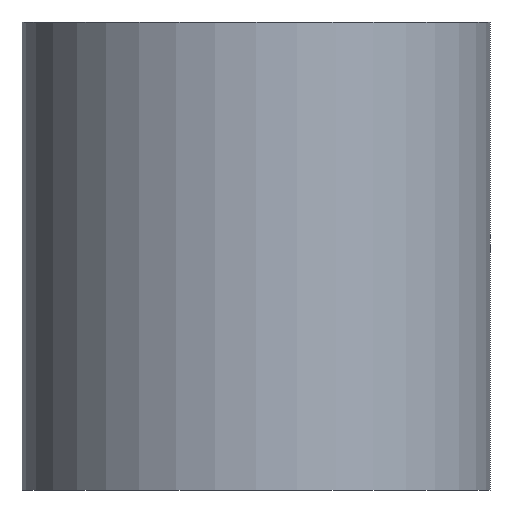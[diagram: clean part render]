
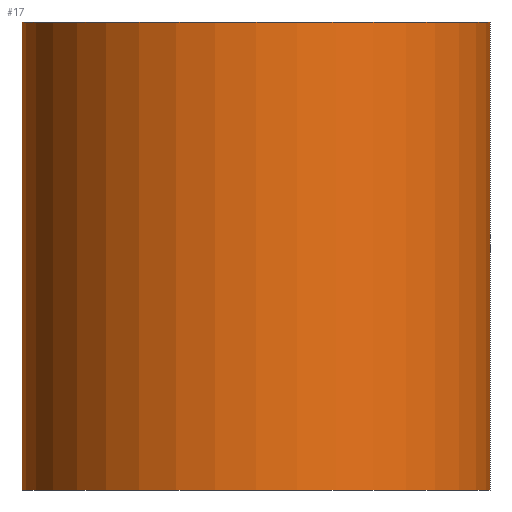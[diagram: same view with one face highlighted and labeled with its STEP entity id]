
A CAD part, front view. The second image highlights one B-rep face of the part: STEP entity #17.
In plain terms, the highlighted cylindrical face has radius 5 mm (diameter 10 mm), a full revolution.
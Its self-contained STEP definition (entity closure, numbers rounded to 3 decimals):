
#17 = ADVANCED_FACE('',(#18),#32,.T.);
#18 = FACE_BOUND('',#19,.F.);
#19 = EDGE_LOOP('',(#20,#50,#77,#78));
#20 = ORIENTED_EDGE('',*,*,#21,.T.);
#21 = EDGE_CURVE('',#22,#24,#26,.T.);
#22 = VERTEX_POINT('',#23);
#23 = CARTESIAN_POINT('',(5.,0.,0.));
#24 = VERTEX_POINT('',#25);
#25 = CARTESIAN_POINT('',(5.,0.,10.));
#26 = SEAM_CURVE('',#27,(#31,#43),.PCURVE_S1.);
#27 = LINE('',#28,#29);
#28 = CARTESIAN_POINT('',(5.,0.,0.));
#29 = VECTOR('',#30,1.);
#30 = DIRECTION('',(0.,0.,1.));
#31 = PCURVE('',#32,#37);
#32 = CYLINDRICAL_SURFACE('',#33,5.);
#33 = AXIS2_PLACEMENT_3D('',#34,#35,#36);
#34 = CARTESIAN_POINT('',(0.,0.,0.));
#35 = DIRECTION('',(-0.,-0.,-1.));
#36 = DIRECTION('',(1.,0.,0.));
#37 = DEFINITIONAL_REPRESENTATION('',(#38),#42);
#38 = LINE('',#39,#40);
#39 = CARTESIAN_POINT('',(-0.,0.));
#40 = VECTOR('',#41,1.);
#41 = DIRECTION('',(-0.,-1.));
#42 = ( GEOMETRIC_REPRESENTATION_CONTEXT(2) 
PARAMETRIC_REPRESENTATION_CONTEXT() REPRESENTATION_CONTEXT('2D SPACE',''
  ) );
#43 = PCURVE('',#32,#44);
#44 = DEFINITIONAL_REPRESENTATION('',(#45),#49);
#45 = LINE('',#46,#47);
#46 = CARTESIAN_POINT('',(-6.283,0.));
#47 = VECTOR('',#48,1.);
#48 = DIRECTION('',(-0.,-1.));
#49 = ( GEOMETRIC_REPRESENTATION_CONTEXT(2) 
PARAMETRIC_REPRESENTATION_CONTEXT() REPRESENTATION_CONTEXT('2D SPACE',''
  ) );
#50 = ORIENTED_EDGE('',*,*,#51,.T.);
#51 = EDGE_CURVE('',#24,#24,#52,.T.);
#52 = SURFACE_CURVE('',#53,(#58,#65),.PCURVE_S1.);
#53 = CIRCLE('',#54,5.);
#54 = AXIS2_PLACEMENT_3D('',#55,#56,#57);
#55 = CARTESIAN_POINT('',(0.,0.,10.));
#56 = DIRECTION('',(0.,0.,1.));
#57 = DIRECTION('',(1.,0.,0.));
#58 = PCURVE('',#32,#59);
#59 = DEFINITIONAL_REPRESENTATION('',(#60),#64);
#60 = LINE('',#61,#62);
#61 = CARTESIAN_POINT('',(-0.,-10.));
#62 = VECTOR('',#63,1.);
#63 = DIRECTION('',(-1.,0.));
#64 = ( GEOMETRIC_REPRESENTATION_CONTEXT(2) 
PARAMETRIC_REPRESENTATION_CONTEXT() REPRESENTATION_CONTEXT('2D SPACE',''
  ) );
#65 = PCURVE('',#66,#71);
#66 = PLANE('',#67);
#67 = AXIS2_PLACEMENT_3D('',#68,#69,#70);
#68 = CARTESIAN_POINT('',(0.,0.,10.));
#69 = DIRECTION('',(0.,0.,1.));
#70 = DIRECTION('',(1.,0.,-0.));
#71 = DEFINITIONAL_REPRESENTATION('',(#72),#76);
#72 = CIRCLE('',#73,5.);
#73 = AXIS2_PLACEMENT_2D('',#74,#75);
#74 = CARTESIAN_POINT('',(0.,0.));
#75 = DIRECTION('',(1.,0.));
#76 = ( GEOMETRIC_REPRESENTATION_CONTEXT(2) 
PARAMETRIC_REPRESENTATION_CONTEXT() REPRESENTATION_CONTEXT('2D SPACE',''
  ) );
#77 = ORIENTED_EDGE('',*,*,#21,.F.);
#78 = ORIENTED_EDGE('',*,*,#79,.F.);
#79 = EDGE_CURVE('',#22,#22,#80,.T.);
#80 = SURFACE_CURVE('',#81,(#86,#93),.PCURVE_S1.);
#81 = CIRCLE('',#82,5.);
#82 = AXIS2_PLACEMENT_3D('',#83,#84,#85);
#83 = CARTESIAN_POINT('',(0.,0.,0.));
#84 = DIRECTION('',(0.,0.,1.));
#85 = DIRECTION('',(1.,0.,0.));
#86 = PCURVE('',#32,#87);
#87 = DEFINITIONAL_REPRESENTATION('',(#88),#92);
#88 = LINE('',#89,#90);
#89 = CARTESIAN_POINT('',(-0.,0.));
#90 = VECTOR('',#91,1.);
#91 = DIRECTION('',(-1.,0.));
#92 = ( GEOMETRIC_REPRESENTATION_CONTEXT(2) 
PARAMETRIC_REPRESENTATION_CONTEXT() REPRESENTATION_CONTEXT('2D SPACE',''
  ) );
#93 = PCURVE('',#94,#99);
#94 = PLANE('',#95);
#95 = AXIS2_PLACEMENT_3D('',#96,#97,#98);
#96 = CARTESIAN_POINT('',(0.,0.,0.));
#97 = DIRECTION('',(0.,0.,1.));
#98 = DIRECTION('',(1.,0.,-0.));
#99 = DEFINITIONAL_REPRESENTATION('',(#100),#104);
#100 = CIRCLE('',#101,5.);
#101 = AXIS2_PLACEMENT_2D('',#102,#103);
#102 = CARTESIAN_POINT('',(0.,0.));
#103 = DIRECTION('',(1.,0.));
#104 = ( GEOMETRIC_REPRESENTATION_CONTEXT(2) 
PARAMETRIC_REPRESENTATION_CONTEXT() REPRESENTATION_CONTEXT('2D SPACE',''
  ) );
